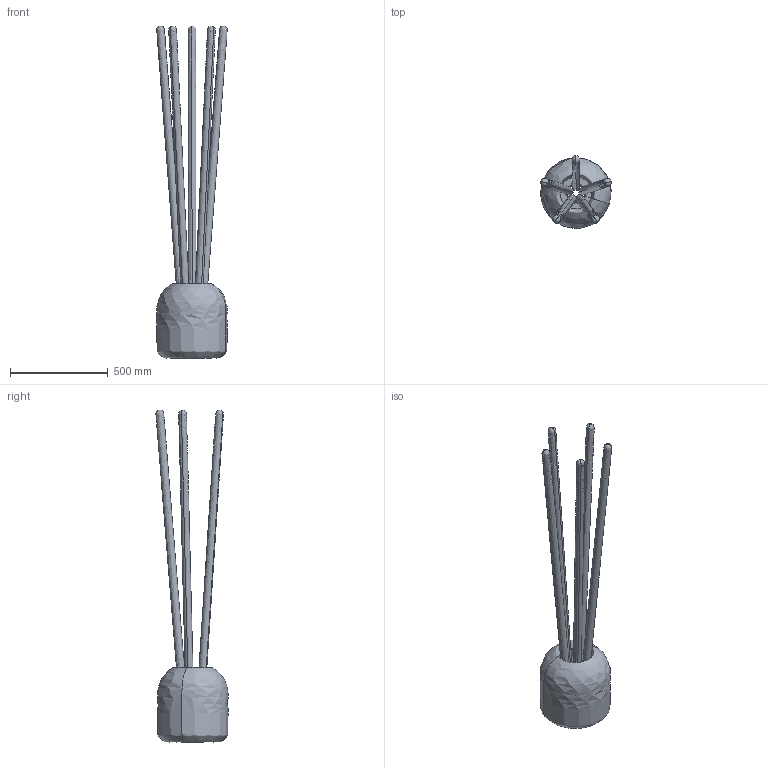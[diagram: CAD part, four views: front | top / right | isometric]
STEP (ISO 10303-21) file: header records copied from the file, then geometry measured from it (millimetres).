
FILE_DESCRIPTION(/* description */ (''),/* implementation_level */ '2;1');
FILE_NAME(/* name */ 'Luce_Di_Carrara_Living_Outdoor_Aroma',/* time_stamp */ '2025-02-19T12:11:28+01:00',/* author */ (''),/* organization */ (''),/* preprocessor_version */ 'ST-DEVELOPER v19.2',/* originating_system */ 'Rhino 8.2',/* authorisation */ '');
FILE_SCHEMA (('CONFIG_CONTROL_DESIGN'));
Length unit declared in the file: millimetre
Products named in the file (1): Document
Bounding box: 360.47 x 368.46 x 1694.54 mm (x, y, z)
Volume: 29180837.9 mm3; surface area: 1900254.3 mm2
Topology: 6 solids, 6 shells, 44 faces, 110 edges, 56 vertices
Faces by surface type: bspline 39, cylinder 5
Entity records: 5809 total; most frequent: CARTESIAN_POINT 5123, ORIENTED_EDGE 180, EDGE_CURVE 90, VERTEX_POINT 56, DIRECTION 49, ADVANCED_FACE 44, FACE_OUTER_BOUND 44, EDGE_LOOP 44
